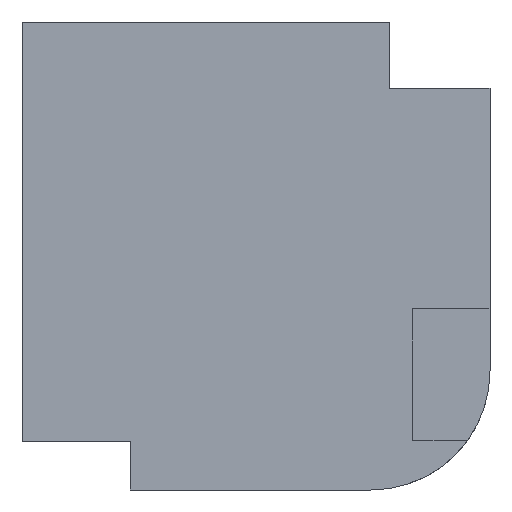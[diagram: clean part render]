
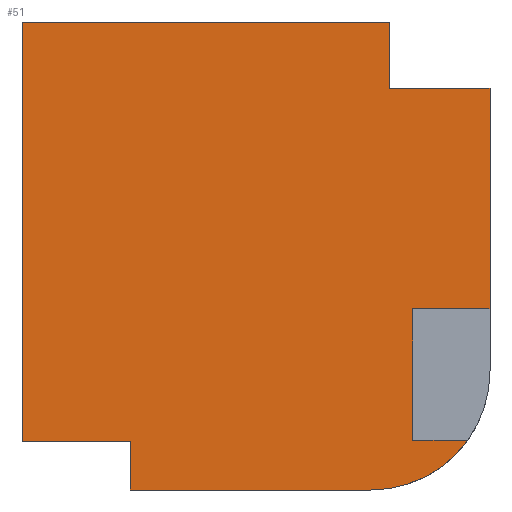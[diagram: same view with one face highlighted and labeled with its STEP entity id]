
A CAD part, left-side view. The second image highlights one B-rep face of the part: STEP entity #51.
In plain terms, the highlighted planar face has unit normal (-1, 0, 0).
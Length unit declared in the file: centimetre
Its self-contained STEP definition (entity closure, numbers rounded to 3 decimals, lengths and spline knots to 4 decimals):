
#5 = CARTESIAN_POINT ( 'NONE',  ( 0., 165.3298, 106.169 ) ) ;
#9 = VERTEX_POINT ( 'NONE', #472 ) ;
#15 = CARTESIAN_POINT ( 'NONE',  ( 0., 214.1313, 858.6954 ) ) ;
#20 = ORIENTED_EDGE ( 'NONE', *, *, #756, .F. ) ;
#22 = CARTESIAN_POINT ( 'NONE',  ( 0., 0., 858.6954 ) ) ;
#27 = ORIENTED_EDGE ( 'NONE', *, *, #687, .T. ) ;
#36 = EDGE_LOOP ( 'NONE', ( #27, #896, #548, #130, #1070, #302, #482, #20, #1139, #1085, #475, #659 ) ) ;
#51 = ADVANCED_FACE ( 'NONE', ( #121 ), #582, .F. ) ;
#52 = LINE ( 'NONE', #244, #973 ) ;
#78 = CARTESIAN_POINT ( 'NONE',  ( 0., 0., 106.169 ) ) ;
#92 = CARTESIAN_POINT ( 'NONE',  ( 0., 0., 386.9644 ) ) ;
#112 = EDGE_CURVE ( 'NONE', #1011, #827, #52, .T. ) ;
#121 = FACE_OUTER_BOUND ( 'NONE', #36, .T. ) ;
#125 = EDGE_CURVE ( 'NONE', #632, #612, #141, .T. ) ;
#130 = ORIENTED_EDGE ( 'NONE', *, *, #125, .T. ) ;
#136 = VECTOR ( 'NONE', #513, 100. ) ;
#141 = LINE ( 'NONE', #407, #457 ) ;
#144 = DIRECTION ( 'NONE',  ( 0., 0., 1. ) ) ;
#145 = VECTOR ( 'NONE', #144, 100. ) ;
#152 = CARTESIAN_POINT ( 'NONE',  ( 0., 214.1313, 858.6954 ) ) ;
#156 = EDGE_CURVE ( 'NONE', #749, #827, #423, .T. ) ;
#167 = CARTESIAN_POINT ( 'NONE',  ( 0., 1000., 1000. ) ) ;
#183 = VECTOR ( 'NONE', #474, 100. ) ;
#187 = DIRECTION ( 'NONE',  ( -1., 0., 0. ) ) ;
#192 = LINE ( 'NONE', #533, #645 ) ;
#209 = VERTEX_POINT ( 'NONE', #939 ) ;
#227 = EDGE_CURVE ( 'NONE', #715, #209, #947, .T. ) ;
#229 = CARTESIAN_POINT ( 'NONE',  ( 0., 165.3298, 106.169 ) ) ;
#232 = CARTESIAN_POINT ( 'NONE',  ( 0., 0., 1000. ) ) ;
#244 = CARTESIAN_POINT ( 'NONE',  ( 0., 1000., 1000. ) ) ;
#302 = ORIENTED_EDGE ( 'NONE', *, *, #227, .F. ) ;
#330 = CARTESIAN_POINT ( 'NONE',  ( 0., 768.3578, 103.5077 ) ) ;
#336 = DIRECTION ( 'NONE',  ( 0., 1., 0. ) ) ;
#352 = AXIS2_PLACEMENT_3D ( 'NONE', #936, #1107, #1031 ) ;
#359 = CIRCLE ( 'NONE', #720, 254.8256 ) ;
#363 = LINE ( 'NONE', #1060, #1093 ) ;
#401 = EDGE_CURVE ( 'NONE', #9, #749, #1007, .T. ) ;
#407 = CARTESIAN_POINT ( 'NONE',  ( 0., 1000., 0. ) ) ;
#423 = LINE ( 'NONE', #152, #145 ) ;
#450 = DIRECTION ( 'NONE',  ( 0., 1., 0. ) ) ;
#457 = VECTOR ( 'NONE', #757, 100. ) ;
#472 = CARTESIAN_POINT ( 'NONE',  ( 0., 0., 858.6954 ) ) ;
#474 = DIRECTION ( 'NONE',  ( 0., 1., 0. ) ) ;
#475 = ORIENTED_EDGE ( 'NONE', *, *, #156, .T. ) ;
#477 = VERTEX_POINT ( 'NONE', #830 ) ;
#482 = ORIENTED_EDGE ( 'NONE', *, *, #552, .F. ) ;
#499 = LINE ( 'NONE', #229, #1046 ) ;
#513 = DIRECTION ( 'NONE',  ( 0., 0., -1. ) ) ;
#519 = CARTESIAN_POINT ( 'NONE',  ( 0., 768.3578, 0. ) ) ;
#521 = CARTESIAN_POINT ( 'NONE',  ( 0., 165.3298, 386.9644 ) ) ;
#525 = VERTEX_POINT ( 'NONE', #836 ) ;
#533 = CARTESIAN_POINT ( 'NONE',  ( 0., 0., 386.9644 ) ) ;
#548 = ORIENTED_EDGE ( 'NONE', *, *, #870, .F. ) ;
#552 = EDGE_CURVE ( 'NONE', #734, #715, #499, .T. ) ;
#572 = DIRECTION ( 'NONE',  ( 0., 0., -1. ) ) ;
#582 = PLANE ( 'NONE',  #352 ) ;
#583 = VECTOR ( 'NONE', #602, 100. ) ;
#594 = LINE ( 'NONE', #167, #136 ) ;
#602 = DIRECTION ( 'NONE',  ( 0., -1., 0. ) ) ;
#612 = VERTEX_POINT ( 'NONE', #1026 ) ;
#614 = CARTESIAN_POINT ( 'NONE',  ( 0., 254.8256, 254.8256 ) ) ;
#632 = VERTEX_POINT ( 'NONE', #519 ) ;
#644 = EDGE_CURVE ( 'NONE', #525, #477, #1112, .T. ) ;
#645 = VECTOR ( 'NONE', #450, 100. ) ;
#659 = ORIENTED_EDGE ( 'NONE', *, *, #112, .F. ) ;
#687 = EDGE_CURVE ( 'NONE', #1011, #477, #594, .T. ) ;
#706 = CARTESIAN_POINT ( 'NONE',  ( 0., 214.1313, 1000. ) ) ;
#715 = VERTEX_POINT ( 'NONE', #5 ) ;
#720 = AXIS2_PLACEMENT_3D ( 'NONE', #614, #187, #809 ) ;
#726 = VERTEX_POINT ( 'NONE', #92 ) ;
#734 = VERTEX_POINT ( 'NONE', #521 ) ;
#737 = EDGE_CURVE ( 'NONE', #612, #209, #359, .T. ) ;
#749 = VERTEX_POINT ( 'NONE', #15 ) ;
#756 = EDGE_CURVE ( 'NONE', #726, #734, #192, .T. ) ;
#757 = DIRECTION ( 'NONE',  ( 0., -1., 0. ) ) ;
#809 = DIRECTION ( 'NONE',  ( 0., 0., -1. ) ) ;
#821 = CARTESIAN_POINT ( 'NONE',  ( 0., 1000., 1000. ) ) ;
#827 = VERTEX_POINT ( 'NONE', #706 ) ;
#830 = CARTESIAN_POINT ( 'NONE',  ( 0., 1000., 103.5077 ) ) ;
#836 = CARTESIAN_POINT ( 'NONE',  ( 0., 768.3578, 103.5077 ) ) ;
#849 = DIRECTION ( 'NONE',  ( 0., -1., 0. ) ) ;
#850 = DIRECTION ( 'NONE',  ( 0., 0., -1. ) ) ;
#870 = EDGE_CURVE ( 'NONE', #632, #525, #363, .T. ) ;
#896 = ORIENTED_EDGE ( 'NONE', *, *, #644, .F. ) ;
#908 = VECTOR ( 'NONE', #850, 100. ) ;
#936 = CARTESIAN_POINT ( 'NONE',  ( 0., 1000., 1000. ) ) ;
#939 = CARTESIAN_POINT ( 'NONE',  ( 0., 47.8539, 106.169 ) ) ;
#947 = LINE ( 'NONE', #78, #583 ) ;
#973 = VECTOR ( 'NONE', #849, 100. ) ;
#1007 = LINE ( 'NONE', #22, #183 ) ;
#1011 = VERTEX_POINT ( 'NONE', #821 ) ;
#1021 = LINE ( 'NONE', #232, #908 ) ;
#1026 = CARTESIAN_POINT ( 'NONE',  ( 0., 254.8256, 0. ) ) ;
#1031 = DIRECTION ( 'NONE',  ( 0., 0., -1. ) ) ;
#1046 = VECTOR ( 'NONE', #572, 100. ) ;
#1060 = CARTESIAN_POINT ( 'NONE',  ( 0., 768.3578, 0. ) ) ;
#1070 = ORIENTED_EDGE ( 'NONE', *, *, #737, .T. ) ;
#1085 = ORIENTED_EDGE ( 'NONE', *, *, #401, .T. ) ;
#1086 = VECTOR ( 'NONE', #336, 100. ) ;
#1093 = VECTOR ( 'NONE', #1101, 100. ) ;
#1101 = DIRECTION ( 'NONE',  ( 0., 0., 1. ) ) ;
#1107 = DIRECTION ( 'NONE',  ( 1., 0., 0. ) ) ;
#1112 = LINE ( 'NONE', #330, #1086 ) ;
#1129 = EDGE_CURVE ( 'NONE', #9, #726, #1021, .T. ) ;
#1139 = ORIENTED_EDGE ( 'NONE', *, *, #1129, .F. ) ;
